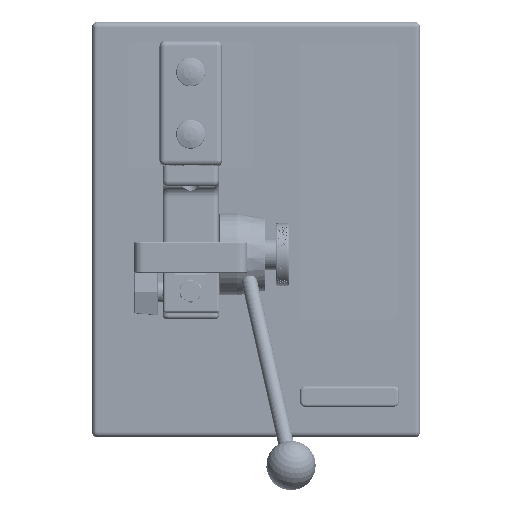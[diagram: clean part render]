
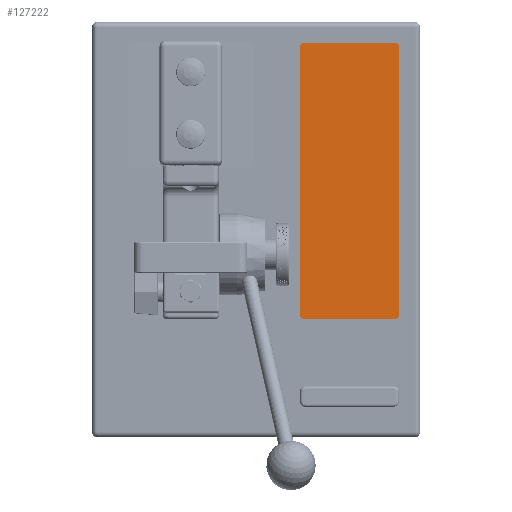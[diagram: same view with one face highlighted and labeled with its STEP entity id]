
A CAD part, top view. The second image highlights one B-rep face of the part: STEP entity #127222.
In plain terms, the highlighted planar face has unit normal (0, 0, 1).
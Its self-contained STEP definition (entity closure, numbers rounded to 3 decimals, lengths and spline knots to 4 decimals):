
#13349=LINE('',#254397,#19829);
#13352=LINE('',#254405,#19832);
#13356=LINE('',#254414,#19836);
#13357=LINE('',#254416,#19837);
#19829=VECTOR('',#181298,1.);
#19832=VECTOR('',#181307,1.);
#19836=VECTOR('',#181317,1.);
#19837=VECTOR('',#181318,1.);
#30846=FACE_OUTER_BOUND('',#38693,.T.);
#38693=EDGE_LOOP('',(#108987,#108988,#108989,#108990,#108991,#108992,#108993,
#108994));
#45029=CIRCLE('',#143792,0.125);
#45030=CIRCLE('',#143795,0.125);
#45031=CIRCLE('',#143798,0.125);
#45032=CIRCLE('',#143800,0.125);
#55630=VERTEX_POINT('',#254390);
#55631=VERTEX_POINT('',#254391);
#55632=VERTEX_POINT('',#254396);
#55633=VERTEX_POINT('',#254400);
#55634=VERTEX_POINT('',#254404);
#55635=VERTEX_POINT('',#254408);
#55636=VERTEX_POINT('',#254409);
#55637=VERTEX_POINT('',#254415);
#73855=EDGE_CURVE('',#55630,#55631,#45029,.T.);
#73858=EDGE_CURVE('',#55630,#55632,#13349,.T.);
#73860=EDGE_CURVE('',#55633,#55632,#45030,.T.);
#73862=EDGE_CURVE('',#55633,#55634,#13352,.T.);
#73864=EDGE_CURVE('',#55635,#55636,#45031,.T.);
#73867=EDGE_CURVE('',#55635,#55631,#13356,.T.);
#73868=EDGE_CURVE('',#55637,#55636,#13357,.T.);
#73869=EDGE_CURVE('',#55637,#55634,#45032,.T.);
#108987=ORIENTED_EDGE('',*,*,#73855,.T.);
#108988=ORIENTED_EDGE('',*,*,#73867,.F.);
#108989=ORIENTED_EDGE('',*,*,#73864,.T.);
#108990=ORIENTED_EDGE('',*,*,#73868,.F.);
#108991=ORIENTED_EDGE('',*,*,#73869,.T.);
#108992=ORIENTED_EDGE('',*,*,#73862,.F.);
#108993=ORIENTED_EDGE('',*,*,#73860,.T.);
#108994=ORIENTED_EDGE('',*,*,#73858,.F.);
#120396=PLANE('',#143799);
#127222=ADVANCED_FACE('',(#30846),#120396,.T.);
#143792=AXIS2_PLACEMENT_3D('',#254392,#181292,#181293);
#143795=AXIS2_PLACEMENT_3D('',#254401,#181302,#181303);
#143798=AXIS2_PLACEMENT_3D('',#254410,#181311,#181312);
#143799=AXIS2_PLACEMENT_3D('',#254413,#181315,#181316);
#143800=AXIS2_PLACEMENT_3D('',#254417,#181319,#181320);
#181292=DIRECTION('center_axis',(0.,0.,
1.));
#181293=DIRECTION('ref_axis',(0.707,-0.707,0.));
#181298=DIRECTION('',(-1.,0.,0.));
#181302=DIRECTION('center_axis',(0.,0.,
1.));
#181303=DIRECTION('ref_axis',(-0.707,-0.707,0.));
#181307=DIRECTION('',(0.,1.,0.));
#181311=DIRECTION('center_axis',(0.,0.,
1.));
#181312=DIRECTION('ref_axis',(0.707,0.707,0.));
#181315=DIRECTION('center_axis',(0.,0.,
1.));
#181316=DIRECTION('ref_axis',(1.,0.,0.));
#181317=DIRECTION('',(0.,-1.,0.));
#181318=DIRECTION('',(1.,0.,0.));
#181319=DIRECTION('center_axis',(0.,0.,
1.));
#181320=DIRECTION('ref_axis',(-0.707,0.707,0.));
#254390=CARTESIAN_POINT('',(37.9869,43.7785,7.229));
#254391=CARTESIAN_POINT('',(38.1119,43.9035,7.229));
#254392=CARTESIAN_POINT('Origin',(37.9869,43.9035,7.229));
#254396=CARTESIAN_POINT('',(35.8369,43.7785,7.229));
#254397=CARTESIAN_POINT('',(36.9119,43.7785,7.229));
#254400=CARTESIAN_POINT('',(35.7119,43.9035,7.229));
#254401=CARTESIAN_POINT('Origin',(35.8369,43.9035,7.229));
#254404=CARTESIAN_POINT('',(35.7119,50.3135,7.229));
#254405=CARTESIAN_POINT('',(35.7119,47.1085,7.229));
#254408=CARTESIAN_POINT('',(38.1119,50.3135,7.229));
#254409=CARTESIAN_POINT('',(37.9869,50.4385,7.229));
#254410=CARTESIAN_POINT('Origin',(37.9869,50.3135,7.229));
#254413=CARTESIAN_POINT('Origin',(36.9119,47.1085,7.229));
#254414=CARTESIAN_POINT('',(38.1119,47.1085,7.229));
#254415=CARTESIAN_POINT('',(35.8369,50.4385,7.229));
#254416=CARTESIAN_POINT('',(36.9119,50.4385,7.229));
#254417=CARTESIAN_POINT('Origin',(35.8369,50.3135,7.229));
